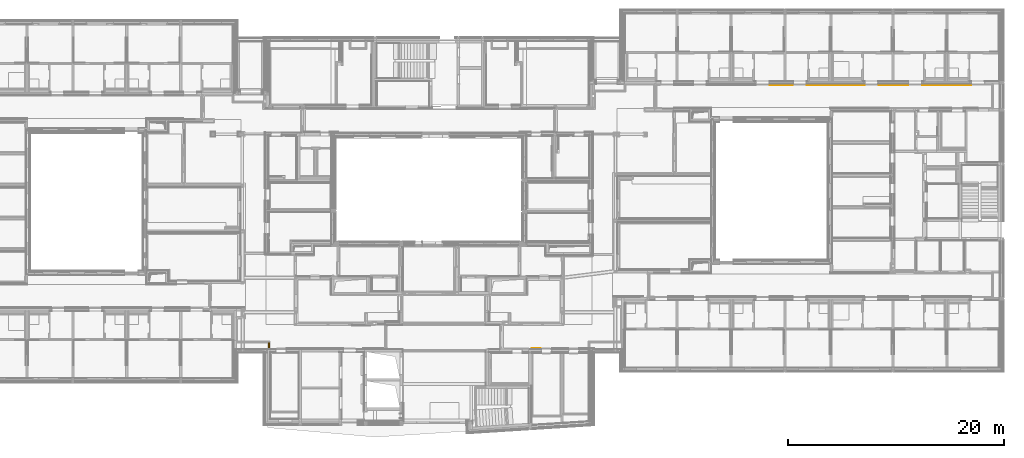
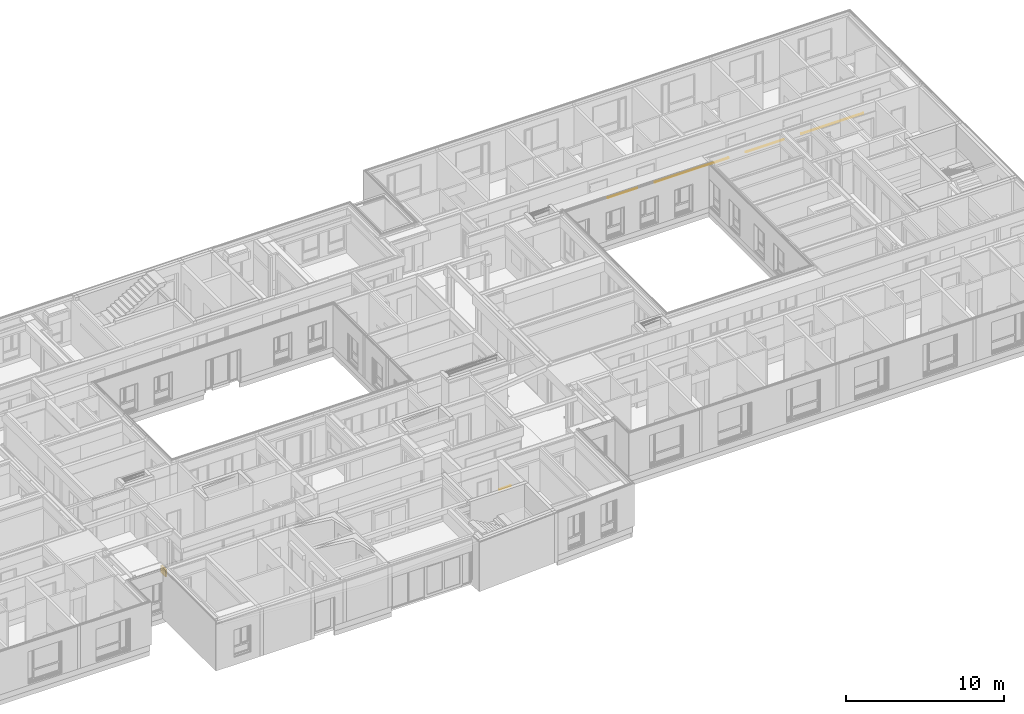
# One storey, part 204 of 207: 5 railings, 1 covering, 5 elements without a shape of their own.
"""IFC4 building model written with IfcOpenShell, lengths in metres."""

from ifc_helpers import new_model, entity, si_unit, converted_unit, derived_unit, frame, origin, place, context, subcontext, project, spatial, faceted_brep, material, element, aggregate, save


model = new_model("IFC4")

# Units and contexts
model_context = context("Model", 3, precision=1e-05, world=origin())
body_context = subcontext(model_context, "Body", "Model", "MODEL_VIEW")
ifc_project = project(units=[si_unit("LENGTHUNIT", "METRE"), si_unit("AREAUNIT", "SQUARE_METRE"), si_unit("VOLUMEUNIT", "CUBIC_METRE"), si_unit("MASSUNIT", "GRAM", prefix="KILO"), converted_unit("PLANEANGLEUNIT", "DEGREE", entity("IfcPlaneAngleMeasure", 0.0174532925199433), si_unit("PLANEANGLEUNIT", "RADIAN"), dimensions=[0, 0, 0, 0, 0, 0, 0]), derived_unit("THERMALTRANSMITTANCEUNIT", [(si_unit("POWERUNIT", "WATT"), 1), (si_unit("THERMODYNAMICTEMPERATUREUNIT", "KELVIN"), -1), (si_unit("LENGTHUNIT", "METRE"), -2)]), derived_unit("VOLUMETRICFLOWRATEUNIT", [(si_unit("LENGTHUNIT", "METRE"), 3), (converted_unit("TIMEUNIT", "hour", entity("IfcTimeMeasure", 3600.0), si_unit("TIMEUNIT", "SECOND"), dimensions=[0, 0, 1, 0, 0, 0, 0]), -1), (si_unit("LENGTHUNIT", "METRE"), -1)])], contexts=[model_context])

# Site, building, storey
site_placement = place(None, origin())
site = spatial("IfcSite", under=ifc_project, at=site_placement, Name="Psychiatrie Neubau Wunstorf", CompositionType="ELEMENT")
building_placement = place(site_placement, origin())
building = spatial("IfcBuilding", under=site, at=building_placement, Name="Neubau H2 Stationsgebäude", CompositionType="ELEMENT")
storey_placement = place(building_placement, frame((0.0, 0.0, -0.2)))
storey = spatial("IfcBuildingStorey", under=building, at=storey_placement, Name="H2 Ebene 0", CompositionType="ELEMENT", Elevation=-0.2)

# Assembly, railing
assembly_1_placement = place(storey_placement, frame((0.0, 0.0, 0.2)))
assembly_1 = element("IfcElementAssembly", 1, at=assembly_1_placement, inside=storey, Name="Geländer+Abstand", PredefinedType="NOTDEFINED")
ifc_material_1 = material(Name="Holz")
railing_1_placement = place(assembly_1_placement, frame((98.715, 25.0175, 0.8)))
railing_1 = element("IfcRailing", 2, at=railing_1_placement, material=ifc_material_1, context=body_context, shape_type="Brep", body=[
    faceted_brep([(4.51999999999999, 0.0498968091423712, 0.025), (4.51999999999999, 0.0495185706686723, 0.0206767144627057), (4.51999999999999, 0.0483953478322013, 0.0164847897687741), (4.51999999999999, 0.046561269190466, 0.0125515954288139), (4.51999999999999, 0.044072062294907, 0.00899663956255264), (4.51999999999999, 0.0410033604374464, 0.00592793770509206), (4.51999999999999, 0.0374484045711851, 0.00343873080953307), (4.51999999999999, 0.033515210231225, 0.00160465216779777), (4.51999999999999, 0.0293232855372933, 0.000481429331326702), (4.51999999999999, 0.024999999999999, 0.000103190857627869), (4.51999999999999, 0.0206767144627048, 0.000481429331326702), (4.51999999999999, 0.0164847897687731, 0.00160465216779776), (4.51999999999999, 0.012551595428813, 0.00343873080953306), (4.51999999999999, 0.00899663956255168, 0.00592793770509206), (4.51999999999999, 0.0059279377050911, 0.00899663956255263), (4.51999999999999, 0.0034387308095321, 0.0125515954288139), (4.51999999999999, 0.0016046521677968, 0.0164847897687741), (4.51999999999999, 0.000481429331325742, 0.0206767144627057), (4.51999999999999, 0.000103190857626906, 0.025), (4.51999999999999, 0.000481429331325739, 0.0293232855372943), (4.51999999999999, 0.0016046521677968, 0.0335152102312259), (4.51999999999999, 0.00343873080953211, 0.0374484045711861), (4.51999999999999, 0.00592793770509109, 0.0410033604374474), (4.51999999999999, 0.00899663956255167, 0.0440720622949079), (4.51999999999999, 0.012551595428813, 0.0465612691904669), (4.51999999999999, 0.0164847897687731, 0.0483953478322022), (4.51999999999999, 0.0206767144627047, 0.0495185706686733), (4.51999999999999, 0.024999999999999, 0.0498968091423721), (4.51999999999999, 0.0293232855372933, 0.0495185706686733), (4.51999999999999, 0.033515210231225, 0.0483953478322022), (4.51999999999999, 0.0374484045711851, 0.0465612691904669), (4.51999999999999, 0.0410033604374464, 0.044072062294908), (4.51999999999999, 0.044072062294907, 0.0410033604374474), (4.51999999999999, 0.046561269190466, 0.0374484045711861), (4.51999999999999, 0.0483953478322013, 0.0335152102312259), (4.51999999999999, 0.0495185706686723, 0.0293232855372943), (0.0, 0.0498968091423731, 0.025), (0.0, 0.0495185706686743, 0.0293232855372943), (0.0, 0.0483953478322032, 0.0335152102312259), (0.0, 0.0465612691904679, 0.0374484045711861), (0.0, 0.0440720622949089, 0.0410033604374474), (0.0, 0.0410033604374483, 0.044072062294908), (0.0, 0.037448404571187, 0.0465612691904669), (0.0, 0.0335152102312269, 0.0483953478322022), (0.0, 0.0293232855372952, 0.0495185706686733), (0.0, 0.025000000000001, 0.0498968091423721), (0.0, 0.0206767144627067, 0.0495185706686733), (0.0, 0.016484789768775, 0.0483953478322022), (0.0, 0.0125515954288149, 0.0465612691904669), (0.0, 0.00899663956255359, 0.0440720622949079), (0.0, 0.00592793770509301, 0.0410033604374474), (0.0, 0.00343873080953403, 0.0374484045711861), (0.0, 0.00160465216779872, 0.0335152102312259), (0.0, 0.000481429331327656, 0.0293232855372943), (0.0, 0.000103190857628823, 0.025), (0.0, 0.000481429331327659, 0.0206767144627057), (0.0, 0.00160465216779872, 0.0164847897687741), (0.0, 0.00343873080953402, 0.0125515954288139), (0.0, 0.00592793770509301, 0.00899663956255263), (0.0, 0.00899663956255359, 0.00592793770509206), (0.0, 0.0125515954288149, 0.00343873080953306), (0.0, 0.016484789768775, 0.00160465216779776), (0.0, 0.0206767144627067, 0.000481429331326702), (0.0, 0.025000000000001, 0.000103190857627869), (0.0, 0.0293232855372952, 0.000481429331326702), (0.0, 0.0335152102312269, 0.00160465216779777), (0.0, 0.037448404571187, 0.00343873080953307), (0.0, 0.0410033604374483, 0.00592793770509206), (0.0, 0.0440720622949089, 0.00899663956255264), (0.0, 0.0465612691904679, 0.0125515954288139), (0.0, 0.0483953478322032, 0.0164847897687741), (0.0, 0.0495185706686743, 0.0206767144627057)], [[[0, 1, 2, 3, 4, 5, 6, 7, 8, 9, 10, 11, 12, 13, 14, 15, 16, 17, 18, 19, 20, 21, 22, 23, 24, 25, 26, 27, 28, 29, 30, 31, 32, 33, 34, 35]], [[36, 37, 38, 39, 40, 41, 42, 43, 44, 45, 46, 47, 48, 49, 50, 51, 52, 53, 54, 55, 56, 57, 58, 59, 60, 61, 62, 63, 64, 65, 66, 67, 68, 69, 70, 71]], [[1, 0, 36, 71]], [[2, 1, 71, 70]], [[3, 2, 70, 69]], [[4, 3, 69, 68]], [[5, 4, 68, 67]], [[6, 5, 67, 66]], [[7, 6, 66, 65]], [[8, 7, 65, 64]], [[9, 8, 64, 63]], [[10, 9, 63, 62]], [[11, 10, 62, 61]], [[12, 11, 61, 60]], [[13, 12, 60, 59]], [[14, 13, 59, 58]], [[15, 14, 58, 57]], [[16, 15, 57, 56]], [[17, 16, 56, 55]], [[18, 17, 55, 54]], [[19, 18, 54, 53]], [[20, 19, 53, 52]], [[21, 20, 52, 51]], [[22, 21, 51, 50]], [[23, 22, 50, 49]], [[24, 23, 49, 48]], [[25, 24, 48, 47]], [[26, 25, 47, 46]], [[27, 26, 46, 45]], [[28, 27, 45, 44]], [[29, 28, 44, 43]], [[30, 29, 43, 42]], [[31, 30, 42, 41]], [[32, 31, 41, 40]], [[33, 32, 40, 39]], [[34, 33, 39, 38]], [[35, 34, 38, 37]], [[0, 35, 37, 36]]], orient=[[False], [False], [False], [False], [False], [False], [False], [False], [False], [False], [False], [False], [False], [False], [False], [False], [False], [False], [False], [False], [False], [False], [False], [False], [False], [False], [False], [False], [False], [False], [False], [False], [False], [False], [False], [False], [False], [False]]),
])
aggregate(assembly_1, [railing_1])

assembly_2_placement = place(storey_placement, frame((0.0, 0.0, 0.2)))
assembly_2 = element("IfcElementAssembly", 3, at=assembly_2_placement, inside=storey, Name="Geländer+Abstand", PredefinedType="NOTDEFINED")
ifc_material_2 = material(Name="Holz")
railing_2_placement = place(assembly_2_placement, frame((94.675, 25.0175, 0.8)))
railing_2 = element("IfcRailing", 4, at=railing_2_placement, material=ifc_material_2, context=body_context, shape_type="Brep", body=[
    faceted_brep([(0.0, 0.0498968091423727, 0.025), (0.0, 0.0495185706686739, 0.0293232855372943), (0.0, 0.0483953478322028, 0.0335152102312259), (0.0, 0.0465612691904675, 0.0374484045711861), (0.0, 0.0440720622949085, 0.0410033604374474), (0.0, 0.041003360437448, 0.0440720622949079), (0.0, 0.0374484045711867, 0.0465612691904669), (0.0, 0.0335152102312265, 0.0483953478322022), (0.0, 0.0293232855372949, 0.0495185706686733), (0.0, 0.0250000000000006, 0.0498968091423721), (0.0, 0.0206767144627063, 0.0495185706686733), (0.0, 0.0164847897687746, 0.0483953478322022), (0.0, 0.0125515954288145, 0.0465612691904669), (0.0, 0.00899663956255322, 0.0440720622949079), (0.0, 0.00592793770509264, 0.0410033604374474), (0.0, 0.00343873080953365, 0.0374484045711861), (0.0, 0.00160465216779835, 0.0335152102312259), (0.0, 0.000481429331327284, 0.0293232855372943), (0.0, 0.000103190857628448, 0.025), (0.0, 0.000481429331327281, 0.0206767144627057), (0.0, 0.00160465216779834, 0.0164847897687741), (0.0, 0.00343873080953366, 0.0125515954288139), (0.0, 0.00592793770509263, 0.00899663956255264), (0.0, 0.00899663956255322, 0.00592793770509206), (0.0, 0.0125515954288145, 0.00343873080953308), (0.0, 0.0164847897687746, 0.00160465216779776), (0.0, 0.0206767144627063, 0.000481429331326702), (0.0, 0.0250000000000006, 0.000103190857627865), (0.0, 0.0293232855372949, 0.000481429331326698), (0.0, 0.0335152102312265, 0.00160465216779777), (0.0, 0.0374484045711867, 0.00343873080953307), (0.0, 0.0410033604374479, 0.00592793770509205), (0.0, 0.0440720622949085, 0.00899663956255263), (0.0, 0.0465612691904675, 0.0125515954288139), (0.0, 0.0483953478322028, 0.0164847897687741), (0.0, 0.0495185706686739, 0.0206767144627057), (2.74999999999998, 0.0498968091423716, 0.025), (2.74999999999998, 0.0495185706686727, 0.0206767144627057), (2.74999999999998, 0.0483953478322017, 0.0164847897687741), (2.74999999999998, 0.0465612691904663, 0.0125515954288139), (2.74999999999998, 0.0440720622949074, 0.00899663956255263), (2.74999999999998, 0.0410033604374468, 0.00592793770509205), (2.74999999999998, 0.0374484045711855, 0.00343873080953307), (2.74999999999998, 0.0335152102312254, 0.00160465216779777), (2.74999999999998, 0.0293232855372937, 0.000481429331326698), (2.74999999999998, 0.0249999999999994, 0.000103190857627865), (2.74999999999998, 0.0206767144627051, 0.000481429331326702), (2.74999999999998, 0.0164847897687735, 0.00160465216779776), (2.74999999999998, 0.0125515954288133, 0.00343873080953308), (2.74999999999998, 0.00899663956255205, 0.00592793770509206), (2.74999999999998, 0.00592793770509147, 0.00899663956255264), (2.74999999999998, 0.00343873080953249, 0.0125515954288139), (2.74999999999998, 0.00160465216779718, 0.0164847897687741), (2.74999999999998, 0.000481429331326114, 0.0206767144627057), (2.74999999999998, 0.000103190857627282, 0.025), (2.74999999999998, 0.000481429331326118, 0.0293232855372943), (2.74999999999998, 0.00160465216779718, 0.0335152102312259), (2.74999999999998, 0.00343873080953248, 0.0374484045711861), (2.74999999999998, 0.00592793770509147, 0.0410033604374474), (2.74999999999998, 0.00899663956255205, 0.0440720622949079), (2.74999999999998, 0.0125515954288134, 0.0465612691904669), (2.74999999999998, 0.0164847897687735, 0.0483953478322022), (2.74999999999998, 0.0206767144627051, 0.0495185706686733), (2.74999999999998, 0.0249999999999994, 0.0498968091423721), (2.74999999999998, 0.0293232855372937, 0.0495185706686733), (2.74999999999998, 0.0335152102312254, 0.0483953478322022), (2.74999999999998, 0.0374484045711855, 0.0465612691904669), (2.74999999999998, 0.0410033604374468, 0.0440720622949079), (2.74999999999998, 0.0440720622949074, 0.0410033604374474), (2.74999999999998, 0.0465612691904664, 0.0374484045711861), (2.74999999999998, 0.0483953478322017, 0.0335152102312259), (2.74999999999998, 0.0495185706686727, 0.0293232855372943)], [[[0, 1, 2, 3, 4, 5, 6, 7, 8, 9, 10, 11, 12, 13, 14, 15, 16, 17, 18, 19, 20, 21, 22, 23, 24, 25, 26, 27, 28, 29, 30, 31, 32, 33, 34, 35]], [[36, 37, 38, 39, 40, 41, 42, 43, 44, 45, 46, 47, 48, 49, 50, 51, 52, 53, 54, 55, 56, 57, 58, 59, 60, 61, 62, 63, 64, 65, 66, 67, 68, 69, 70, 71]], [[1, 0, 36, 71]], [[2, 1, 71, 70]], [[3, 2, 70, 69]], [[4, 3, 69, 68]], [[5, 4, 68, 67]], [[6, 5, 67, 66]], [[7, 6, 66, 65]], [[8, 7, 65, 64]], [[9, 8, 64, 63]], [[10, 9, 63, 62]], [[11, 10, 62, 61]], [[12, 11, 61, 60]], [[13, 12, 60, 59]], [[14, 13, 59, 58]], [[15, 14, 58, 57]], [[16, 15, 57, 56]], [[17, 16, 56, 55]], [[18, 17, 55, 54]], [[19, 18, 54, 53]], [[20, 19, 53, 52]], [[21, 20, 52, 51]], [[22, 21, 51, 50]], [[23, 22, 50, 49]], [[24, 23, 49, 48]], [[25, 24, 48, 47]], [[26, 25, 47, 46]], [[27, 26, 46, 45]], [[28, 27, 45, 44]], [[29, 28, 44, 43]], [[30, 29, 43, 42]], [[31, 30, 42, 41]], [[32, 31, 41, 40]], [[33, 32, 40, 39]], [[34, 33, 39, 38]], [[35, 34, 38, 37]], [[0, 35, 37, 36]]], orient=[[False], [False], [False], [False], [False], [False], [False], [False], [False], [False], [False], [False], [False], [False], [False], [False], [False], [False], [False], [False], [False], [False], [False], [False], [False], [False], [False], [False], [False], [False], [False], [False], [False], [False], [False], [False], [False], [False]]),
])
aggregate(assembly_2, [railing_2])

assembly_3_placement = place(storey_placement, frame((0.0, 0.0, 0.2)))
assembly_3 = element("IfcElementAssembly", 5, at=assembly_3_placement, inside=storey, Name="Geländer+Abstand", PredefinedType="NOTDEFINED")
ifc_material_3 = material(Name="Holz")
railing_3_placement = place(assembly_3_placement, frame((88.015, 25.0175, 0.8)))
railing_3 = element("IfcRailing", 6, at=railing_3_placement, material=ifc_material_3, context=body_context, shape_type="Brep", body=[
    faceted_brep([(0.0, 0.0498968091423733, 0.025), (0.0, 0.0495185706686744, 0.0293232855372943), (0.0, 0.0483953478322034, 0.0335152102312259), (0.0, 0.0465612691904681, 0.0374484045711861), (0.0, 0.0440720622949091, 0.0410033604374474), (0.0, 0.0410033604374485, 0.0440720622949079), (0.0, 0.0374484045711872, 0.0465612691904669), (0.0, 0.0335152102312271, 0.0483953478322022), (0.0, 0.0293232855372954, 0.0495185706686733), (0.0, 0.0250000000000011, 0.0498968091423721), (0.0, 0.0206767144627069, 0.0495185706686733), (0.0, 0.0164847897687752, 0.0483953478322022), (0.0, 0.0125515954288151, 0.0465612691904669), (0.0, 0.00899663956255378, 0.0440720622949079), (0.0, 0.0059279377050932, 0.0410033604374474), (0.0, 0.0034387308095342, 0.0374484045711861), (0.0, 0.0016046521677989, 0.0335152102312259), (0.0, 0.000481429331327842, 0.0293232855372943), (0.0, 0.000103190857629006, 0.025), (0.0, 0.000481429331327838, 0.0206767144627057), (0.0, 0.0016046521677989, 0.0164847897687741), (0.0, 0.00343873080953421, 0.0125515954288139), (0.0, 0.00592793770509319, 0.00899663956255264), (0.0, 0.00899663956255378, 0.00592793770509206), (0.0, 0.0125515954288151, 0.00343873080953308), (0.0, 0.0164847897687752, 0.00160465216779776), (0.0, 0.0206767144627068, 0.000481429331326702), (0.0, 0.0250000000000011, 0.000103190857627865), (0.0, 0.0293232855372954, 0.000481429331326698), (0.0, 0.0335152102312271, 0.00160465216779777), (0.0, 0.0374484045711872, 0.00343873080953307), (0.0, 0.0410033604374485, 0.00592793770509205), (0.0, 0.0440720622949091, 0.00899663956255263), (0.0, 0.0465612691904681, 0.0125515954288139), (0.0, 0.0483953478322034, 0.0164847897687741), (0.0, 0.0495185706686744, 0.0206767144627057), (5.36999999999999, 0.049896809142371, 0.025), (5.36999999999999, 0.0495185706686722, 0.0206767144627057), (5.36999999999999, 0.0483953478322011, 0.0164847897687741), (5.36999999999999, 0.0465612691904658, 0.0125515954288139), (5.36999999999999, 0.0440720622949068, 0.00899663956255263), (5.36999999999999, 0.0410033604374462, 0.00592793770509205), (5.36999999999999, 0.0374484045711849, 0.00343873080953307), (5.36999999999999, 0.0335152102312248, 0.00160465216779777), (5.36999999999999, 0.0293232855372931, 0.000481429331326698), (5.36999999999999, 0.0249999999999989, 0.000103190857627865), (5.36999999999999, 0.0206767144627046, 0.000481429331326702), (5.36999999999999, 0.0164847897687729, 0.00160465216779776), (5.36999999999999, 0.0125515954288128, 0.00343873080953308), (5.36999999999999, 0.0089966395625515, 0.00592793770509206), (5.36999999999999, 0.00592793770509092, 0.00899663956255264), (5.36999999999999, 0.00343873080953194, 0.0125515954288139), (5.36999999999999, 0.00160465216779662, 0.0164847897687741), (5.36999999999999, 0.000481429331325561, 0.0206767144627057), (5.36999999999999, 0.000103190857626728, 0.025), (5.36999999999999, 0.000481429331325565, 0.0293232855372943), (5.36999999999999, 0.00160465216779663, 0.0335152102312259), (5.36999999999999, 0.00343873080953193, 0.0374484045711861), (5.36999999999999, 0.00592793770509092, 0.0410033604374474), (5.36999999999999, 0.0089966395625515, 0.0440720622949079), (5.36999999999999, 0.0125515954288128, 0.0465612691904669), (5.36999999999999, 0.0164847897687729, 0.0483953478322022), (5.36999999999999, 0.0206767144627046, 0.0495185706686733), (5.36999999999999, 0.0249999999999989, 0.0498968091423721), (5.36999999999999, 0.0293232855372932, 0.0495185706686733), (5.36999999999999, 0.0335152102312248, 0.0483953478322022), (5.36999999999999, 0.0374484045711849, 0.0465612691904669), (5.36999999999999, 0.0410033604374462, 0.0440720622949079), (5.36999999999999, 0.0440720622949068, 0.0410033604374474), (5.36999999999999, 0.0465612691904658, 0.0374484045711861), (5.36999999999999, 0.0483953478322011, 0.0335152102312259), (5.36999999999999, 0.0495185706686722, 0.0293232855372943)], [[[0, 1, 2, 3, 4, 5, 6, 7, 8, 9, 10, 11, 12, 13, 14, 15, 16, 17, 18, 19, 20, 21, 22, 23, 24, 25, 26, 27, 28, 29, 30, 31, 32, 33, 34, 35]], [[36, 37, 38, 39, 40, 41, 42, 43, 44, 45, 46, 47, 48, 49, 50, 51, 52, 53, 54, 55, 56, 57, 58, 59, 60, 61, 62, 63, 64, 65, 66, 67, 68, 69, 70, 71]], [[1, 0, 36, 71]], [[2, 1, 71, 70]], [[3, 2, 70, 69]], [[4, 3, 69, 68]], [[5, 4, 68, 67]], [[6, 5, 67, 66]], [[7, 6, 66, 65]], [[8, 7, 65, 64]], [[9, 8, 64, 63]], [[10, 9, 63, 62]], [[11, 10, 62, 61]], [[12, 11, 61, 60]], [[13, 12, 60, 59]], [[14, 13, 59, 58]], [[15, 14, 58, 57]], [[16, 15, 57, 56]], [[17, 16, 56, 55]], [[18, 17, 55, 54]], [[19, 18, 54, 53]], [[20, 19, 53, 52]], [[21, 20, 52, 51]], [[22, 21, 51, 50]], [[23, 22, 50, 49]], [[24, 23, 49, 48]], [[25, 24, 48, 47]], [[26, 25, 47, 46]], [[27, 26, 46, 45]], [[28, 27, 45, 44]], [[29, 28, 44, 43]], [[30, 29, 43, 42]], [[31, 30, 42, 41]], [[32, 31, 41, 40]], [[33, 32, 40, 39]], [[34, 33, 39, 38]], [[35, 34, 38, 37]], [[0, 35, 37, 36]]], orient=[[False], [False], [False], [False], [False], [False], [False], [False], [False], [False], [False], [False], [False], [False], [False], [False], [False], [False], [False], [False], [False], [False], [False], [False], [False], [False], [False], [False], [False], [False], [False], [False], [False], [False], [False], [False], [False], [False]]),
])
aggregate(assembly_3, [railing_3])

assembly_4_placement = place(storey_placement, frame((0.0, 0.0, 0.2)))
assembly_4 = element("IfcElementAssembly", 7, at=assembly_4_placement, inside=storey, Name="Geländer+Abstand", PredefinedType="NOTDEFINED")
ifc_material_4 = material(Name="Holz")
railing_4_placement = place(assembly_4_placement, frame((84.575, 25.0175, 0.8)))
railing_4 = element("IfcRailing", 8, at=railing_4_placement, material=ifc_material_4, context=body_context, shape_type="Brep", body=[
    faceted_brep([(0.0, 0.0498968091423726, 0.025), (0.0, 0.0495185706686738, 0.0293232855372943), (0.0, 0.0483953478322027, 0.0335152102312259), (0.0, 0.0465612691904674, 0.0374484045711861), (0.0, 0.0440720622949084, 0.0410033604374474), (0.0, 0.0410033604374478, 0.0440720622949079), (0.0, 0.0374484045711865, 0.0465612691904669), (0.0, 0.0335152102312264, 0.0483953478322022), (0.0, 0.0293232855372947, 0.0495185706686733), (0.0, 0.0250000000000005, 0.0498968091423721), (0.0, 0.0206767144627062, 0.0495185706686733), (0.0, 0.0164847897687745, 0.0483953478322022), (0.0, 0.0125515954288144, 0.0465612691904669), (0.0, 0.00899663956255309, 0.0440720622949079), (0.0, 0.00592793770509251, 0.0410033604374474), (0.0, 0.00343873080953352, 0.0374484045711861), (0.0, 0.00160465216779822, 0.0335152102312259), (0.0, 0.000481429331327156, 0.0293232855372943), (0.0, 0.00010319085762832, 0.025), (0.0, 0.000481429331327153, 0.0206767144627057), (0.0, 0.00160465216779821, 0.0164847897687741), (0.0, 0.00343873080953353, 0.0125515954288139), (0.0, 0.00592793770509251, 0.00899663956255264), (0.0, 0.00899663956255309, 0.00592793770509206), (0.0, 0.0125515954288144, 0.00343873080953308), (0.0, 0.0164847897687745, 0.00160465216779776), (0.0, 0.0206767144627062, 0.000481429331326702), (0.0, 0.0250000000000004, 0.000103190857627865), (0.0, 0.0293232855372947, 0.000481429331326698), (0.0, 0.0335152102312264, 0.00160465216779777), (0.0, 0.0374484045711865, 0.00343873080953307), (0.0, 0.0410033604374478, 0.00592793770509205), (0.0, 0.0440720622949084, 0.00899663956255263), (0.0, 0.0465612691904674, 0.0125515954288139), (0.0, 0.0483953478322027, 0.0164847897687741), (0.0, 0.0495185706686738, 0.0206767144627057), (2.14999999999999, 0.0498968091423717, 0.025), (2.14999999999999, 0.0495185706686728, 0.0206767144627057), (2.14999999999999, 0.0483953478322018, 0.0164847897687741), (2.14999999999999, 0.0465612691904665, 0.0125515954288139), (2.14999999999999, 0.0440720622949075, 0.00899663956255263), (2.14999999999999, 0.0410033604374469, 0.00592793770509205), (2.14999999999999, 0.0374484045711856, 0.00343873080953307), (2.14999999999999, 0.0335152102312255, 0.00160465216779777), (2.14999999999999, 0.0293232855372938, 0.000481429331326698), (2.14999999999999, 0.0249999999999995, 0.000103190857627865), (2.14999999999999, 0.0206767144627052, 0.000481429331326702), (2.14999999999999, 0.0164847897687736, 0.00160465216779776), (2.14999999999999, 0.0125515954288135, 0.00343873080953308), (2.14999999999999, 0.00899663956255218, 0.00592793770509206), (2.14999999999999, 0.00592793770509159, 0.00899663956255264), (2.14999999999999, 0.00343873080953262, 0.0125515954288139), (2.14999999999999, 0.0016046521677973, 0.0164847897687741), (2.14999999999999, 0.000481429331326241, 0.0206767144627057), (2.14999999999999, 0.000103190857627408, 0.025), (2.14999999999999, 0.000481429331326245, 0.0293232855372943), (2.14999999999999, 0.00160465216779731, 0.0335152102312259), (2.14999999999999, 0.00343873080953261, 0.0374484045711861), (2.14999999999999, 0.0059279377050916, 0.0410033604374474), (2.14999999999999, 0.00899663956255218, 0.0440720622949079), (2.14999999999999, 0.0125515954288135, 0.0465612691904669), (2.14999999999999, 0.0164847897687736, 0.0483953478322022), (2.14999999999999, 0.0206767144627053, 0.0495185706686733), (2.14999999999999, 0.0249999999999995, 0.0498968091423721), (2.14999999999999, 0.0293232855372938, 0.0495185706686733), (2.14999999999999, 0.0335152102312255, 0.0483953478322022), (2.14999999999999, 0.0374484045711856, 0.0465612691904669), (2.14999999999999, 0.0410033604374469, 0.0440720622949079), (2.14999999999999, 0.0440720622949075, 0.0410033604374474), (2.14999999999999, 0.0465612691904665, 0.0374484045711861), (2.14999999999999, 0.0483953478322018, 0.0335152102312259), (2.14999999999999, 0.0495185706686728, 0.0293232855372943)], [[[0, 1, 2, 3, 4, 5, 6, 7, 8, 9, 10, 11, 12, 13, 14, 15, 16, 17, 18, 19, 20, 21, 22, 23, 24, 25, 26, 27, 28, 29, 30, 31, 32, 33, 34, 35]], [[36, 37, 38, 39, 40, 41, 42, 43, 44, 45, 46, 47, 48, 49, 50, 51, 52, 53, 54, 55, 56, 57, 58, 59, 60, 61, 62, 63, 64, 65, 66, 67, 68, 69, 70, 71]], [[1, 0, 36, 71]], [[2, 1, 71, 70]], [[3, 2, 70, 69]], [[4, 3, 69, 68]], [[5, 4, 68, 67]], [[6, 5, 67, 66]], [[7, 6, 66, 65]], [[8, 7, 65, 64]], [[9, 8, 64, 63]], [[10, 9, 63, 62]], [[11, 10, 62, 61]], [[12, 11, 61, 60]], [[13, 12, 60, 59]], [[14, 13, 59, 58]], [[15, 14, 58, 57]], [[16, 15, 57, 56]], [[17, 16, 56, 55]], [[18, 17, 55, 54]], [[19, 18, 54, 53]], [[20, 19, 53, 52]], [[21, 20, 52, 51]], [[22, 21, 51, 50]], [[23, 22, 50, 49]], [[24, 23, 49, 48]], [[25, 24, 48, 47]], [[26, 25, 47, 46]], [[27, 26, 46, 45]], [[28, 27, 45, 44]], [[29, 28, 44, 43]], [[30, 29, 43, 42]], [[31, 30, 42, 41]], [[32, 31, 41, 40]], [[33, 32, 40, 39]], [[34, 33, 39, 38]], [[35, 34, 38, 37]], [[0, 35, 37, 36]]], orient=[[False], [False], [False], [False], [False], [False], [False], [False], [False], [False], [False], [False], [False], [False], [False], [False], [False], [False], [False], [False], [False], [False], [False], [False], [False], [False], [False], [False], [False], [False], [False], [False], [False], [False], [False], [False], [False], [False]]),
])
aggregate(assembly_4, [railing_4])

assembly_5_placement = place(storey_placement, frame((0.0, 0.0, 0.2)))
assembly_5 = element("IfcElementAssembly", 9, at=assembly_5_placement, inside=storey, Name="Geländer+Abstand", PredefinedType="NOTDEFINED")
ifc_material_5 = material(Name="Holz")
railing_5_placement = place(assembly_5_placement, frame((62.534225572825, 0.5865, 0.8)))
railing_5 = element("IfcRailing", 10, at=railing_5_placement, material=ifc_material_5, context=body_context, shape_type="Brep", body=[
    faceted_brep([(0.83500000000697, 0.000103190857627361, 0.025), (0.83500000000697, 0.000481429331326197, 0.0293232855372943), (0.83500000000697, 0.00160465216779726, 0.0335152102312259), (0.83500000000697, 0.00343873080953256, 0.0374484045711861), (0.83500000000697, 0.00592793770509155, 0.0410033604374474), (0.83500000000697, 0.00899663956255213, 0.0440720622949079), (0.83500000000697, 0.0125515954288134, 0.0465612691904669), (0.83500000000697, 0.0164847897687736, 0.0483953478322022), (0.83500000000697, 0.0206767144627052, 0.0495185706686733), (0.83500000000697, 0.0249999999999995, 0.0498968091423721), (0.83500000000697, 0.0293232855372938, 0.0495185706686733), (0.83500000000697, 0.0335152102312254, 0.0483953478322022), (0.83500000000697, 0.0374484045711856, 0.0465612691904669), (0.83500000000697, 0.0410033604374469, 0.0440720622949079), (0.83500000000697, 0.0440720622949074, 0.0410033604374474), (0.83500000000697, 0.0465612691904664, 0.0374484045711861), (0.83500000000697, 0.0483953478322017, 0.0335152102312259), (0.83500000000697, 0.0495185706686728, 0.0293232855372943), (0.83500000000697, 0.0498968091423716, 0.025), (0.83500000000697, 0.0495185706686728, 0.0206767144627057), (0.83500000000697, 0.0483953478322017, 0.0164847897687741), (0.83500000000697, 0.0465612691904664, 0.0125515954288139), (0.83500000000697, 0.0440720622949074, 0.00899663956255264), (0.83500000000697, 0.0410033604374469, 0.00592793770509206), (0.83500000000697, 0.0374484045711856, 0.00343873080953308), (0.83500000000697, 0.0335152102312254, 0.00160465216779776), (0.83500000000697, 0.0293232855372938, 0.000481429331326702), (0.83500000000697, 0.0249999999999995, 0.000103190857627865), (0.83500000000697, 0.0206767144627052, 0.000481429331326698), (0.83500000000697, 0.0164847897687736, 0.00160465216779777), (0.83500000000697, 0.0125515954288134, 0.00343873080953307), (0.83500000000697, 0.00899663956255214, 0.00592793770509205), (0.83500000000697, 0.00592793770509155, 0.00899663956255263), (0.83500000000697, 0.00343873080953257, 0.0125515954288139), (0.83500000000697, 0.00160465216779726, 0.0164847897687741), (0.83500000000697, 0.000481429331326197, 0.0206767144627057), (0.0, 0.000103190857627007, 0.025), (0.0, 0.000481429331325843, 0.0206767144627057), (0.0, 0.0016046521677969, 0.0164847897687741), (0.0, 0.00343873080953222, 0.0125515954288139), (0.0, 0.0059279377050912, 0.00899663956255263), (0.0, 0.00899663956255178, 0.00592793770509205), (0.0, 0.0125515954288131, 0.00343873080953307), (0.0, 0.0164847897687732, 0.00160465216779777), (0.0, 0.0206767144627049, 0.000481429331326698), (0.0, 0.0249999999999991, 0.000103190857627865), (0.0, 0.0293232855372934, 0.000481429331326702), (0.0, 0.0335152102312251, 0.00160465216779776), (0.0, 0.0374484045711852, 0.00343873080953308), (0.0, 0.0410033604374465, 0.00592793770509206), (0.0, 0.0440720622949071, 0.00899663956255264), (0.0, 0.0465612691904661, 0.0125515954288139), (0.0, 0.0483953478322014, 0.0164847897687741), (0.0, 0.0495185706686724, 0.0206767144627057), (0.0, 0.0498968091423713, 0.025), (0.0, 0.0495185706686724, 0.0293232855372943), (0.0, 0.0483953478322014, 0.0335152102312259), (0.0, 0.0465612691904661, 0.0374484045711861), (0.0, 0.0440720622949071, 0.0410033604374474), (0.0, 0.0410033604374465, 0.0440720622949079), (0.0, 0.0374484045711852, 0.0465612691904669), (0.0, 0.0335152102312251, 0.0483953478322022), (0.0, 0.0293232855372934, 0.0495185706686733), (0.0, 0.0249999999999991, 0.0498968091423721), (0.0, 0.0206767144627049, 0.0495185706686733), (0.0, 0.0164847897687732, 0.0483953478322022), (0.0, 0.0125515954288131, 0.0465612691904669), (0.0, 0.00899663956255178, 0.0440720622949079), (0.0, 0.0059279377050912, 0.0410033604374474), (0.0, 0.0034387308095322, 0.0374484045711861), (0.0, 0.0016046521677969, 0.0335152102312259), (0.0, 0.000481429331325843, 0.0293232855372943)], [[[0, 1, 2, 3, 4, 5, 6, 7, 8, 9, 10, 11, 12, 13, 14, 15, 16, 17, 18, 19, 20, 21, 22, 23, 24, 25, 26, 27, 28, 29, 30, 31, 32, 33, 34, 35]], [[36, 37, 38, 39, 40, 41, 42, 43, 44, 45, 46, 47, 48, 49, 50, 51, 52, 53, 54, 55, 56, 57, 58, 59, 60, 61, 62, 63, 64, 65, 66, 67, 68, 69, 70, 71]], [[1, 0, 36, 71]], [[2, 1, 71, 70]], [[3, 2, 70, 69]], [[4, 3, 69, 68]], [[5, 4, 68, 67]], [[6, 5, 67, 66]], [[7, 6, 66, 65]], [[8, 7, 65, 64]], [[9, 8, 64, 63]], [[10, 9, 63, 62]], [[11, 10, 62, 61]], [[12, 11, 61, 60]], [[13, 12, 60, 59]], [[14, 13, 59, 58]], [[15, 14, 58, 57]], [[16, 15, 57, 56]], [[17, 16, 56, 55]], [[18, 17, 55, 54]], [[19, 18, 54, 53]], [[20, 19, 53, 52]], [[21, 20, 52, 51]], [[22, 21, 51, 50]], [[23, 22, 50, 49]], [[24, 23, 49, 48]], [[25, 24, 48, 47]], [[26, 25, 47, 46]], [[27, 26, 46, 45]], [[28, 27, 45, 44]], [[29, 28, 44, 43]], [[30, 29, 43, 42]], [[31, 30, 42, 41]], [[32, 31, 41, 40]], [[33, 32, 40, 39]], [[34, 33, 39, 38]], [[35, 34, 38, 37]], [[0, 35, 37, 36]]], orient=[[False], [False], [False], [False], [False], [False], [False], [False], [False], [False], [False], [False], [False], [False], [False], [False], [False], [False], [False], [False], [False], [False], [False], [False], [False], [False], [False], [False], [False], [False], [False], [False], [False], [False], [False], [False], [False], [False]]),
])
aggregate(assembly_5, [railing_5])

# Covering
covering_placement = place(storey_placement, frame((38.1, 0.549, 2.85)))
element("IfcCovering", 11, at=covering_placement, inside=storey, Name="a-sh Abschluss Abhangdecke", PredefinedType="CEILING", context=body_context, shape_type="Brep", body=[
    faceted_brep([(0.125, 0.600999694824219, 0.0), (0.125, 0.0, 0.0), (0.125, 0.0, 0.55), (0.125, 0.600999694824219, 0.55), (0.0, 0.0, 0.0), (0.0, 0.0, 0.55), (0.0, 0.600999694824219, 0.0), (0.0, 0.600999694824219, 0.55)], [[[0, 1, 2, 3]], [[1, 4, 5, 2]], [[4, 6, 7, 5]], [[6, 0, 3, 7]], [[7, 3, 2, 5]], [[0, 6, 4, 1]]], orient=[[False], [False], [False], [False], [False], [False]]),
])

save(model, "model.ifc")
